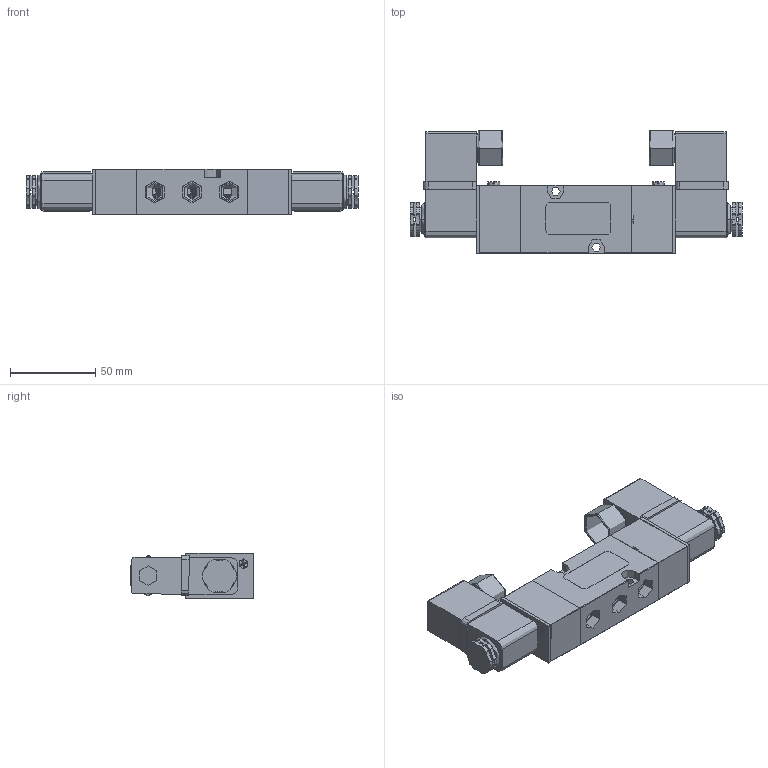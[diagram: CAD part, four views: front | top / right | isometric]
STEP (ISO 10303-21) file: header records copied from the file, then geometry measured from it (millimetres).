
FILE_DESCRIPTION (( 'STEP AP203' ), '1' );
FILE_NAME ('N4D-C.STEP', '2020-11-19T17:52:13', ( '' ), ( '' ), 'SwSTEP 2.0', 'SolidWorks 2017', '' );
FILE_SCHEMA (( 'CONFIG_CONTROL_DESIGN' ));
Length unit declared in the file: inch
Products named in the file (45): n4s-label; spool-rings; N4D-C; coil-std; N4S-spool-cap; N4S-spool-cap-plate; N4SBODY; coil-nut; armature-tube; spool; m3x35 PHIL MACHINE SCREW_92000A134; m3x30 HEAD PHILLIPS MACHINE SCREW; m3x35 PHIL MACHINE SCREW; coil-gasket; Assem3; conduit-connector-n4s; Assem2^BN4S-B; m3x30 HEAD PHILLIPS MACHINE SCREW_91420A134
Assembly tree (35 placements, depth 3):
  n4s-label
  spool-rings
  N4D-C
    N4SBODY
    Assem3
      spool
      spool-rings  x6
    N4S-spool-cap-plate  x2
    armature-tube
    m3x30 HEAD PHILLIPS MACHINE SCREW_91420A134  x3
    coil-std  x2
    coil-nut  x2
    m3x35 PHIL MACHINE SCREW_92000A134  x2
    n4s-label
    coil-gasket  x2
    Assem2^BN4S-B  x2
      conduit-connector-n4s
    N4S-spool-cap  x3
  N4S-spool-cap
  coil-std
Bounding box: 195.07 x 72.27 x 26.91 mm (x, y, z)
Volume: 169552.1 mm3; surface area: 97880 mm2
Topology: 29 solids, 29 shells, 2923 faces, 8120 edges, 5346 vertices
Faces by surface type: cylinder 1917, plane 716, cone 181, torus 90, bspline 15, sphere 4
Entity records: 70525 total; most frequent: CARTESIAN_POINT 32758, ORIENTED_EDGE 7818, DIRECTION 6342, EDGE_CURVE 3909, VERTEX_POINT 2564, AXIS2_PLACEMENT_3D 2374, LINE 1594, VECTOR 1594
